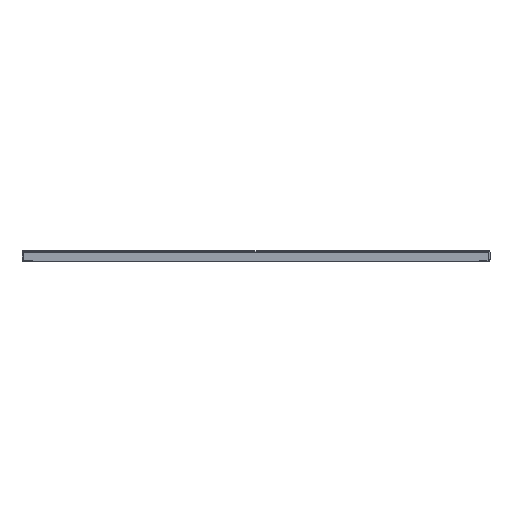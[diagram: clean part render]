
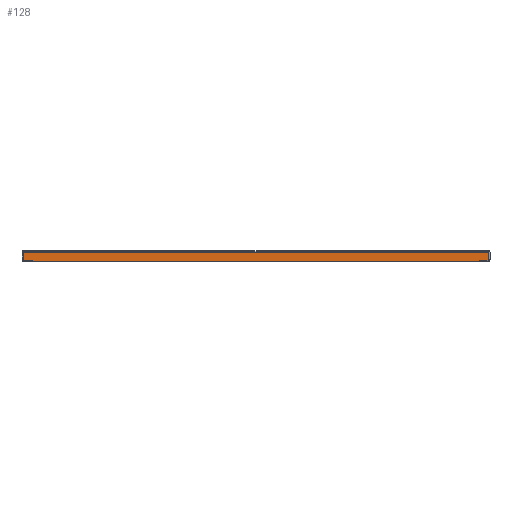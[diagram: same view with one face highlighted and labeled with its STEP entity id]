
A CAD part, front view. The second image highlights one B-rep face of the part: STEP entity #128.
In plain terms, the highlighted planar face has unit normal (0, -1, 0).
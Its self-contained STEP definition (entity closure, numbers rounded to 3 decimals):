
#128=ADVANCED_FACE('',(#1206),#1208,.F.);
#1206=FACE_BOUND('',#1207,.T.);
#1207=EDGE_LOOP('',(#1817,#1818,#1819,#1820));
#1208=PLANE('',#1209);
#1209=AXIS2_PLACEMENT_3D('',#1210,#1211,#1212);
#1210=CARTESIAN_POINT('',(0.,-866.5,0.));
#1211=DIRECTION('',(0.,1.,0.));
#1212=DIRECTION('',(0.,0.,1.));
#1817=ORIENTED_EDGE('',*,*,#2171,.F.);
#1818=ORIENTED_EDGE('',*,*,#2173,.F.);
#1819=ORIENTED_EDGE('',*,*,#2174,.F.);
#1820=ORIENTED_EDGE('',*,*,#2175,.F.);
#2171=EDGE_CURVE('',#2560,#2554,#2563,.T.);
#2173=EDGE_CURVE('',#2565,#2560,#2566,.T.);
#2174=EDGE_CURVE('',#2567,#2565,#2568,.T.);
#2175=EDGE_CURVE('',#2554,#2567,#2569,.T.);
#2554=VERTEX_POINT('',#4248);
#2560=VERTEX_POINT('',#4444);
#2563=LINE('',#4547,#4548);
#2565=VERTEX_POINT('',#4553);
#2566=LINE('',#4554,#4555);
#2567=VERTEX_POINT('',#4557);
#2568=LINE('',#4558,#4559);
#2569=LINE('',#4561,#4562);
#4248=CARTESIAN_POINT('',(535.823,-866.5,-4.4));
#4444=CARTESIAN_POINT('',(-535.823,-866.5,-4.4));
#4547=CARTESIAN_POINT('',(-535.823,-866.5,-4.4));
#4548=VECTOR('',#4549,1.);
#4549=DIRECTION('',(1.,0.,0.));
#4553=CARTESIAN_POINT('',(-535.823,-866.5,-24.5));
#4554=CARTESIAN_POINT('',(-535.823,-866.5,-24.5));
#4555=VECTOR('',#4556,1.);
#4556=DIRECTION('',(0.,0.,1.));
#4557=CARTESIAN_POINT('',(535.823,-866.5,-24.5));
#4558=CARTESIAN_POINT('',(535.823,-866.5,-24.5));
#4559=VECTOR('',#4560,1.);
#4560=DIRECTION('',(-1.,0.,0.));
#4561=CARTESIAN_POINT('',(535.823,-866.5,-4.4));
#4562=VECTOR('',#4563,1.);
#4563=DIRECTION('',(0.,0.,-1.));
